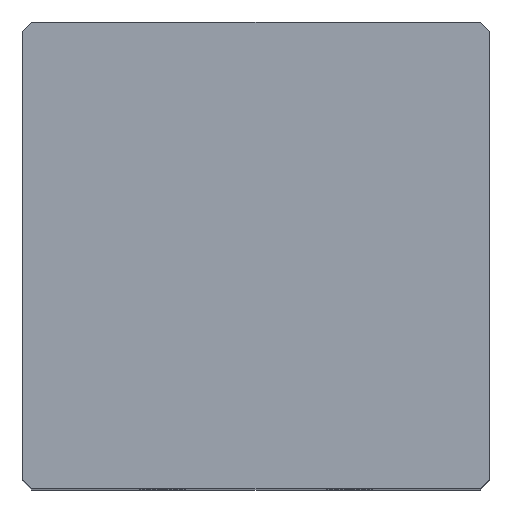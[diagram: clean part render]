
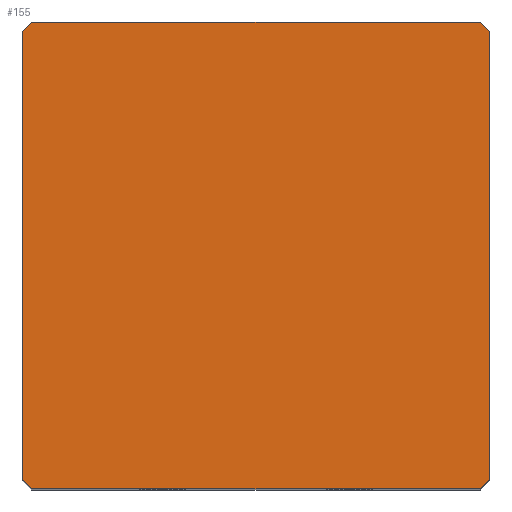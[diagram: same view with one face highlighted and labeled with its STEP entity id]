
A CAD part, top view. The second image highlights one B-rep face of the part: STEP entity #155.
In plain terms, the highlighted planar face has unit normal (0, 0, 1).
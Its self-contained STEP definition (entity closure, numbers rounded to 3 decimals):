
#39 = EDGE_CURVE('',#40,#42,#44,.T.);
#40 = VERTEX_POINT('',#41);
#41 = CARTESIAN_POINT('',(-10.,-9.6,26.25));
#42 = VERTEX_POINT('',#43);
#43 = CARTESIAN_POINT('',(-10.,9.6,26.25));
#44 = SURFACE_CURVE('',#45,(#49,#61),.PCURVE_S1.);
#45 = LINE('',#46,#47);
#46 = CARTESIAN_POINT('',(-10.,-10.,26.25));
#47 = VECTOR('',#48,1.);
#48 = DIRECTION('',(-0.,1.,0.));
#49 = PCURVE('',#50,#55);
#50 = PLANE('',#51);
#51 = AXIS2_PLACEMENT_3D('',#52,#53,#54);
#52 = CARTESIAN_POINT('',(-10.,-10.,0.));
#53 = DIRECTION('',(1.,0.,-0.));
#54 = DIRECTION('',(0.,0.,1.));
#55 = DEFINITIONAL_REPRESENTATION('',(#56),#60);
#56 = LINE('',#57,#58);
#57 = CARTESIAN_POINT('',(26.25,0.));
#58 = VECTOR('',#59,1.);
#59 = DIRECTION('',(0.,-1.));
#60 = ( GEOMETRIC_REPRESENTATION_CONTEXT(2) 
PARAMETRIC_REPRESENTATION_CONTEXT() REPRESENTATION_CONTEXT('2D SPACE',''
  ) );
#61 = PCURVE('',#62,#67);
#62 = PLANE('',#63);
#63 = AXIS2_PLACEMENT_3D('',#64,#65,#66);
#64 = CARTESIAN_POINT('',(-10.,-10.,26.25));
#65 = DIRECTION('',(0.,0.,1.));
#66 = DIRECTION('',(1.,0.,-0.));
#67 = DEFINITIONAL_REPRESENTATION('',(#68),#72);
#68 = LINE('',#69,#70);
#69 = CARTESIAN_POINT('',(0.,0.));
#70 = VECTOR('',#71,1.);
#71 = DIRECTION('',(0.,1.));
#72 = ( GEOMETRIC_REPRESENTATION_CONTEXT(2) 
PARAMETRIC_REPRESENTATION_CONTEXT() REPRESENTATION_CONTEXT('2D SPACE',''
  ) );
#90 = PLANE('',#91);
#91 = AXIS2_PLACEMENT_3D('',#92,#93,#94);
#92 = CARTESIAN_POINT('',(-9.8,-9.8,0.));
#93 = DIRECTION('',(-0.707,-0.707,0.));
#94 = DIRECTION('',(-0.,-0.,-1.));
#144 = PLANE('',#145);
#145 = AXIS2_PLACEMENT_3D('',#146,#147,#148);
#146 = CARTESIAN_POINT('',(-9.8,9.8,0.));
#147 = DIRECTION('',(0.707,-0.707,0.));
#148 = DIRECTION('',(-0.,-0.,-1.));
#155 = ADVANCED_FACE('',(#156),#62,.T.);
#156 = FACE_BOUND('',#157,.T.);
#157 = EDGE_LOOP('',(#158,#159,#182,#210,#238,#266,#294,#322));
#158 = ORIENTED_EDGE('',*,*,#39,.F.);
#159 = ORIENTED_EDGE('',*,*,#160,.T.);
#160 = EDGE_CURVE('',#40,#161,#163,.T.);
#161 = VERTEX_POINT('',#162);
#162 = CARTESIAN_POINT('',(-9.6,-10.,26.25));
#163 = SURFACE_CURVE('',#164,(#168,#175),.PCURVE_S1.);
#164 = LINE('',#165,#166);
#165 = CARTESIAN_POINT('',(-9.8,-9.8,26.25));
#166 = VECTOR('',#167,1.);
#167 = DIRECTION('',(0.707,-0.707,0.));
#168 = PCURVE('',#62,#169);
#169 = DEFINITIONAL_REPRESENTATION('',(#170),#174);
#170 = LINE('',#171,#172);
#171 = CARTESIAN_POINT('',(0.2,0.2));
#172 = VECTOR('',#173,1.);
#173 = DIRECTION('',(0.707,-0.707));
#174 = ( GEOMETRIC_REPRESENTATION_CONTEXT(2) 
PARAMETRIC_REPRESENTATION_CONTEXT() REPRESENTATION_CONTEXT('2D SPACE',''
  ) );
#175 = PCURVE('',#90,#176);
#176 = DEFINITIONAL_REPRESENTATION('',(#177),#181);
#177 = LINE('',#178,#179);
#178 = CARTESIAN_POINT('',(-26.25,0.));
#179 = VECTOR('',#180,1.);
#180 = DIRECTION('',(-0.,1.));
#181 = ( GEOMETRIC_REPRESENTATION_CONTEXT(2) 
PARAMETRIC_REPRESENTATION_CONTEXT() REPRESENTATION_CONTEXT('2D SPACE',''
  ) );
#182 = ORIENTED_EDGE('',*,*,#183,.T.);
#183 = EDGE_CURVE('',#161,#184,#186,.T.);
#184 = VERTEX_POINT('',#185);
#185 = CARTESIAN_POINT('',(9.6,-10.,26.25));
#186 = SURFACE_CURVE('',#187,(#191,#198),.PCURVE_S1.);
#187 = LINE('',#188,#189);
#188 = CARTESIAN_POINT('',(-10.,-10.,26.25));
#189 = VECTOR('',#190,1.);
#190 = DIRECTION('',(1.,0.,-0.));
#191 = PCURVE('',#62,#192);
#192 = DEFINITIONAL_REPRESENTATION('',(#193),#197);
#193 = LINE('',#194,#195);
#194 = CARTESIAN_POINT('',(0.,0.));
#195 = VECTOR('',#196,1.);
#196 = DIRECTION('',(1.,0.));
#197 = ( GEOMETRIC_REPRESENTATION_CONTEXT(2) 
PARAMETRIC_REPRESENTATION_CONTEXT() REPRESENTATION_CONTEXT('2D SPACE',''
  ) );
#198 = PCURVE('',#199,#204);
#199 = PLANE('',#200);
#200 = AXIS2_PLACEMENT_3D('',#201,#202,#203);
#201 = CARTESIAN_POINT('',(-10.,-10.,0.));
#202 = DIRECTION('',(-0.,1.,0.));
#203 = DIRECTION('',(0.,0.,1.));
#204 = DEFINITIONAL_REPRESENTATION('',(#205),#209);
#205 = LINE('',#206,#207);
#206 = CARTESIAN_POINT('',(26.25,0.));
#207 = VECTOR('',#208,1.);
#208 = DIRECTION('',(0.,1.));
#209 = ( GEOMETRIC_REPRESENTATION_CONTEXT(2) 
PARAMETRIC_REPRESENTATION_CONTEXT() REPRESENTATION_CONTEXT('2D SPACE',''
  ) );
#210 = ORIENTED_EDGE('',*,*,#211,.F.);
#211 = EDGE_CURVE('',#212,#184,#214,.T.);
#212 = VERTEX_POINT('',#213);
#213 = CARTESIAN_POINT('',(10.,-9.6,26.25));
#214 = SURFACE_CURVE('',#215,(#219,#226),.PCURVE_S1.);
#215 = LINE('',#216,#217);
#216 = CARTESIAN_POINT('',(4.8,-14.8,26.25));
#217 = VECTOR('',#218,1.);
#218 = DIRECTION('',(-0.707,-0.707,0.));
#219 = PCURVE('',#62,#220);
#220 = DEFINITIONAL_REPRESENTATION('',(#221),#225);
#221 = LINE('',#222,#223);
#222 = CARTESIAN_POINT('',(14.8,-4.8));
#223 = VECTOR('',#224,1.);
#224 = DIRECTION('',(-0.707,-0.707));
#225 = ( GEOMETRIC_REPRESENTATION_CONTEXT(2) 
PARAMETRIC_REPRESENTATION_CONTEXT() REPRESENTATION_CONTEXT('2D SPACE',''
  ) );
#226 = PCURVE('',#227,#232);
#227 = PLANE('',#228);
#228 = AXIS2_PLACEMENT_3D('',#229,#230,#231);
#229 = CARTESIAN_POINT('',(9.8,-9.8,0.));
#230 = DIRECTION('',(-0.707,0.707,0.));
#231 = DIRECTION('',(-0.,-0.,-1.));
#232 = DEFINITIONAL_REPRESENTATION('',(#233),#237);
#233 = LINE('',#234,#235);
#234 = CARTESIAN_POINT('',(-26.25,7.071));
#235 = VECTOR('',#236,1.);
#236 = DIRECTION('',(-0.,1.));
#237 = ( GEOMETRIC_REPRESENTATION_CONTEXT(2) 
PARAMETRIC_REPRESENTATION_CONTEXT() REPRESENTATION_CONTEXT('2D SPACE',''
  ) );
#238 = ORIENTED_EDGE('',*,*,#239,.T.);
#239 = EDGE_CURVE('',#212,#240,#242,.T.);
#240 = VERTEX_POINT('',#241);
#241 = CARTESIAN_POINT('',(10.,9.6,26.25));
#242 = SURFACE_CURVE('',#243,(#247,#254),.PCURVE_S1.);
#243 = LINE('',#244,#245);
#244 = CARTESIAN_POINT('',(10.,-10.,26.25));
#245 = VECTOR('',#246,1.);
#246 = DIRECTION('',(-0.,1.,0.));
#247 = PCURVE('',#62,#248);
#248 = DEFINITIONAL_REPRESENTATION('',(#249),#253);
#249 = LINE('',#250,#251);
#250 = CARTESIAN_POINT('',(20.,0.));
#251 = VECTOR('',#252,1.);
#252 = DIRECTION('',(0.,1.));
#253 = ( GEOMETRIC_REPRESENTATION_CONTEXT(2) 
PARAMETRIC_REPRESENTATION_CONTEXT() REPRESENTATION_CONTEXT('2D SPACE',''
  ) );
#254 = PCURVE('',#255,#260);
#255 = PLANE('',#256);
#256 = AXIS2_PLACEMENT_3D('',#257,#258,#259);
#257 = CARTESIAN_POINT('',(10.,-10.,0.));
#258 = DIRECTION('',(1.,0.,-0.));
#259 = DIRECTION('',(0.,0.,1.));
#260 = DEFINITIONAL_REPRESENTATION('',(#261),#265);
#261 = LINE('',#262,#263);
#262 = CARTESIAN_POINT('',(26.25,0.));
#263 = VECTOR('',#264,1.);
#264 = DIRECTION('',(0.,-1.));
#265 = ( GEOMETRIC_REPRESENTATION_CONTEXT(2) 
PARAMETRIC_REPRESENTATION_CONTEXT() REPRESENTATION_CONTEXT('2D SPACE',''
  ) );
#266 = ORIENTED_EDGE('',*,*,#267,.T.);
#267 = EDGE_CURVE('',#240,#268,#270,.T.);
#268 = VERTEX_POINT('',#269);
#269 = CARTESIAN_POINT('',(9.6,10.,26.25));
#270 = SURFACE_CURVE('',#271,(#275,#282),.PCURVE_S1.);
#271 = LINE('',#272,#273);
#272 = CARTESIAN_POINT('',(9.8,9.8,26.25));
#273 = VECTOR('',#274,1.);
#274 = DIRECTION('',(-0.707,0.707,0.));
#275 = PCURVE('',#62,#276);
#276 = DEFINITIONAL_REPRESENTATION('',(#277),#281);
#277 = LINE('',#278,#279);
#278 = CARTESIAN_POINT('',(19.8,19.8));
#279 = VECTOR('',#280,1.);
#280 = DIRECTION('',(-0.707,0.707));
#281 = ( GEOMETRIC_REPRESENTATION_CONTEXT(2) 
PARAMETRIC_REPRESENTATION_CONTEXT() REPRESENTATION_CONTEXT('2D SPACE',''
  ) );
#282 = PCURVE('',#283,#288);
#283 = PLANE('',#284);
#284 = AXIS2_PLACEMENT_3D('',#285,#286,#287);
#285 = CARTESIAN_POINT('',(9.8,9.8,0.));
#286 = DIRECTION('',(0.707,0.707,0.));
#287 = DIRECTION('',(-0.,0.,-1.));
#288 = DEFINITIONAL_REPRESENTATION('',(#289),#293);
#289 = LINE('',#290,#291);
#290 = CARTESIAN_POINT('',(-26.25,0.));
#291 = VECTOR('',#292,1.);
#292 = DIRECTION('',(-0.,1.));
#293 = ( GEOMETRIC_REPRESENTATION_CONTEXT(2) 
PARAMETRIC_REPRESENTATION_CONTEXT() REPRESENTATION_CONTEXT('2D SPACE',''
  ) );
#294 = ORIENTED_EDGE('',*,*,#295,.F.);
#295 = EDGE_CURVE('',#296,#268,#298,.T.);
#296 = VERTEX_POINT('',#297);
#297 = CARTESIAN_POINT('',(-9.6,10.,26.25));
#298 = SURFACE_CURVE('',#299,(#303,#310),.PCURVE_S1.);
#299 = LINE('',#300,#301);
#300 = CARTESIAN_POINT('',(-10.,10.,26.25));
#301 = VECTOR('',#302,1.);
#302 = DIRECTION('',(1.,0.,-0.));
#303 = PCURVE('',#62,#304);
#304 = DEFINITIONAL_REPRESENTATION('',(#305),#309);
#305 = LINE('',#306,#307);
#306 = CARTESIAN_POINT('',(0.,20.));
#307 = VECTOR('',#308,1.);
#308 = DIRECTION('',(1.,0.));
#309 = ( GEOMETRIC_REPRESENTATION_CONTEXT(2) 
PARAMETRIC_REPRESENTATION_CONTEXT() REPRESENTATION_CONTEXT('2D SPACE',''
  ) );
#310 = PCURVE('',#311,#316);
#311 = PLANE('',#312);
#312 = AXIS2_PLACEMENT_3D('',#313,#314,#315);
#313 = CARTESIAN_POINT('',(-10.,10.,0.));
#314 = DIRECTION('',(-0.,1.,0.));
#315 = DIRECTION('',(0.,0.,1.));
#316 = DEFINITIONAL_REPRESENTATION('',(#317),#321);
#317 = LINE('',#318,#319);
#318 = CARTESIAN_POINT('',(26.25,0.));
#319 = VECTOR('',#320,1.);
#320 = DIRECTION('',(0.,1.));
#321 = ( GEOMETRIC_REPRESENTATION_CONTEXT(2) 
PARAMETRIC_REPRESENTATION_CONTEXT() REPRESENTATION_CONTEXT('2D SPACE',''
  ) );
#322 = ORIENTED_EDGE('',*,*,#323,.F.);
#323 = EDGE_CURVE('',#42,#296,#324,.T.);
#324 = SURFACE_CURVE('',#325,(#329,#336),.PCURVE_S1.);
#325 = LINE('',#326,#327);
#326 = CARTESIAN_POINT('',(-14.8,4.8,26.25));
#327 = VECTOR('',#328,1.);
#328 = DIRECTION('',(0.707,0.707,-0.));
#329 = PCURVE('',#62,#330);
#330 = DEFINITIONAL_REPRESENTATION('',(#331),#335);
#331 = LINE('',#332,#333);
#332 = CARTESIAN_POINT('',(-4.8,14.8));
#333 = VECTOR('',#334,1.);
#334 = DIRECTION('',(0.707,0.707));
#335 = ( GEOMETRIC_REPRESENTATION_CONTEXT(2) 
PARAMETRIC_REPRESENTATION_CONTEXT() REPRESENTATION_CONTEXT('2D SPACE',''
  ) );
#336 = PCURVE('',#144,#337);
#337 = DEFINITIONAL_REPRESENTATION('',(#338),#342);
#338 = LINE('',#339,#340);
#339 = CARTESIAN_POINT('',(-26.25,-7.071));
#340 = VECTOR('',#341,1.);
#341 = DIRECTION('',(-0.,1.));
#342 = ( GEOMETRIC_REPRESENTATION_CONTEXT(2) 
PARAMETRIC_REPRESENTATION_CONTEXT() REPRESENTATION_CONTEXT('2D SPACE',''
  ) );
